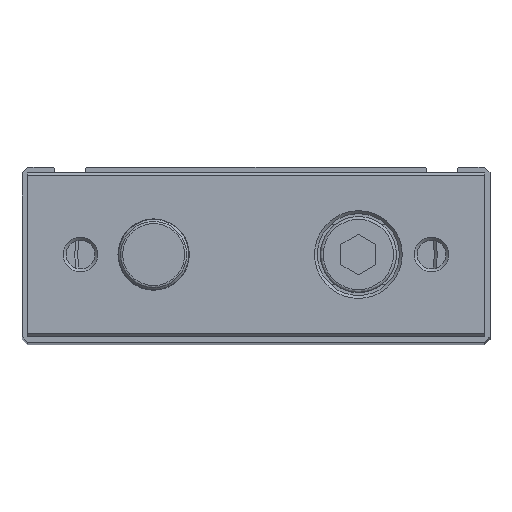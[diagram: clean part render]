
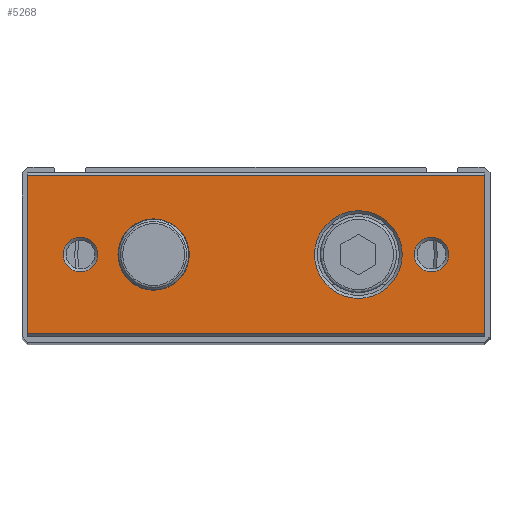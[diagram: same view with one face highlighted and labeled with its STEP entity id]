
A CAD part, top view. The second image highlights one B-rep face of the part: STEP entity #5268.
In plain terms, the highlighted planar face has unit normal (0, 0, 1).
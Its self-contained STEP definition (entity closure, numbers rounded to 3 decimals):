
#3994=CARTESIAN_POINT('',(-39.0,-13.5,261.0));
#3995=VERTEX_POINT('',#3994);
#4002=CARTESIAN_POINT('',(-39.0,13.5,261.0));
#4003=VERTEX_POINT('',#4002);
#4004=CARTESIAN_POINT('',(-39.0,13.5,261.0));
#4005=DIRECTION('',(0.0,-1.0,0.0));
#4006=VECTOR('',#4005,27.);
#4007=LINE('',#4004,#4006);
#4008=EDGE_CURVE('',#4003,#3995,#4007,.T.);
#4122=CARTESIAN_POINT('',(39.0,-13.5,261.0));
#4123=VERTEX_POINT('',#4122);
#4130=CARTESIAN_POINT('',(39.0,-13.5,261.0));
#4131=DIRECTION('',(-1.0,0.0,0.0));
#4132=VECTOR('',#4131,78.0);
#4133=LINE('',#4130,#4132);
#4134=EDGE_CURVE('',#4123,#3995,#4133,.T.);
#4201=CARTESIAN_POINT('',(39.0,13.5,261.0));
#4202=VERTEX_POINT('',#4201);
#4209=CARTESIAN_POINT('',(39.0,-13.5,261.0));
#4210=DIRECTION('',(0.0,1.0,0.0));
#4211=VECTOR('',#4210,27.);
#4212=LINE('',#4209,#4211);
#4213=EDGE_CURVE('',#4123,#4202,#4212,.T.);
#5204=CARTESIAN_POINT('',(-27.042,0.,261.0));
#5205=VERTEX_POINT('',#5204);
#5206=CARTESIAN_POINT('',(-30.0,0.,261.0));
#5207=DIRECTION('',(0.0,0.0,1.0));
#5208=DIRECTION('',(-1.0,0.0,0.0));
#5209=AXIS2_PLACEMENT_3D('',#5206,#5207,#5208);
#5210=CIRCLE('',#5209,2.958);
#5211=EDGE_CURVE('',#5205,#5205,#5210,.T.);
#5216=CARTESIAN_POINT('',(0.0,-14.,261.0));
#5217=DIRECTION('',(0.0,0.0,1.0));
#5218=DIRECTION('',(1.0,0.0,0.0));
#5219=AXIS2_PLACEMENT_3D('',#5216,#5217,#5218);
#5220=PLANE('',#5219);
#5221=ORIENTED_EDGE('',*,*,#4134,.F.);
#5222=ORIENTED_EDGE('',*,*,#4213,.T.);
#5223=CARTESIAN_POINT('',(-39.0,13.5,261.0));
#5224=DIRECTION('',(1.0,0.0,0.0));
#5225=VECTOR('',#5224,78.0);
#5226=LINE('',#5223,#5225);
#5227=EDGE_CURVE('',#4003,#4202,#5226,.T.);
#5228=ORIENTED_EDGE('',*,*,#5227,.F.);
#5229=ORIENTED_EDGE('',*,*,#4008,.T.);
#5230=EDGE_LOOP('',(#5221,#5222,#5228,#5229));
#5231=FACE_OUTER_BOUND('',#5230,.T.);
#5232=CARTESIAN_POINT('',(32.959,0.,261.0));
#5233=VERTEX_POINT('',#5232);
#5234=CARTESIAN_POINT('',(30.0,0.,261.0));
#5235=DIRECTION('',(0.0,0.0,1.0));
#5236=DIRECTION('',(-1.0,0.0,0.0));
#5237=AXIS2_PLACEMENT_3D('',#5234,#5235,#5236);
#5238=CIRCLE('',#5237,2.958);
#5239=EDGE_CURVE('',#5233,#5233,#5238,.T.);
#5240=ORIENTED_EDGE('',*,*,#5239,.F.);
#5241=EDGE_LOOP('',(#5240));
#5242=FACE_BOUND('',#5241,.T.);
#5243=CARTESIAN_POINT('',(-11.4,0.,261.0));
#5244=VERTEX_POINT('',#5243);
#5245=CARTESIAN_POINT('',(-17.5,0.,261.0));
#5246=DIRECTION('',(0.0,0.0,-1.0));
#5247=DIRECTION('',(-1.0,0.0,0.0));
#5248=AXIS2_PLACEMENT_3D('',#5245,#5246,#5247);
#5249=CIRCLE('',#5248,6.1);
#5250=EDGE_CURVE('',#5244,#5244,#5249,.T.);
#5251=ORIENTED_EDGE('',*,*,#5250,.T.);
#5252=EDGE_LOOP('',(#5251));
#5253=FACE_BOUND('',#5252,.T.);
#5254=CARTESIAN_POINT('',(25.0,0.,261.0));
#5255=VERTEX_POINT('',#5254);
#5256=CARTESIAN_POINT('',(17.5,0.,261.0));
#5257=DIRECTION('',(0.0,0.0,1.0));
#5258=DIRECTION('',(-1.0,0.0,0.0));
#5259=AXIS2_PLACEMENT_3D('',#5256,#5257,#5258);
#5260=CIRCLE('',#5259,7.5);
#5261=EDGE_CURVE('',#5255,#5255,#5260,.T.);
#5262=ORIENTED_EDGE('',*,*,#5261,.F.);
#5263=EDGE_LOOP('',(#5262));
#5264=FACE_BOUND('',#5263,.T.);
#5265=ORIENTED_EDGE('',*,*,#5211,.F.);
#5266=EDGE_LOOP('',(#5265));
#5267=FACE_BOUND('',#5266,.T.);
#5268=ADVANCED_FACE('',(#5231,#5242,#5253,#5264,#5267),#5220,.T.);
